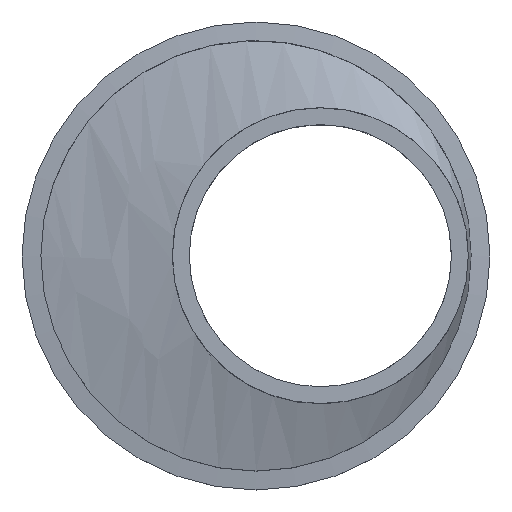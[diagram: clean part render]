
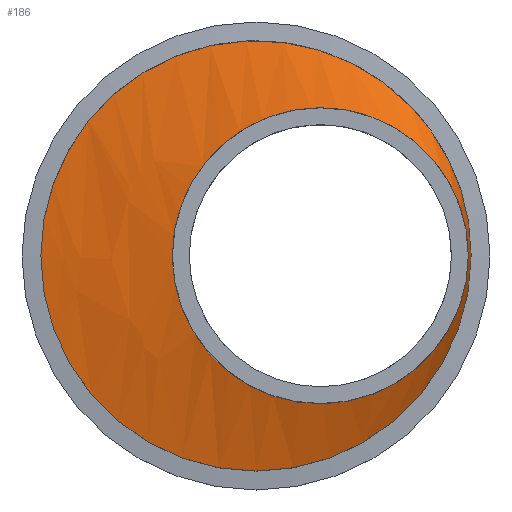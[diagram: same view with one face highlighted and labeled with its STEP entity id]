
A CAD part, top view. The second image highlights one B-rep face of the part: STEP entity #186.
In plain terms, the highlighted free-form (B-spline) face has degree [1, 2] with [2, 9] control points.
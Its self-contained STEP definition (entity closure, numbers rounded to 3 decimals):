
#15=B_SPLINE_CURVE_WITH_KNOTS($,1,(#357,#358),.UNSPECIFIED.,.F.,.F.,(2,
2),(-0.36,0.),.UNSPECIFIED.);
#17=(
BOUNDED_SURFACE()
B_SPLINE_SURFACE(1,2,((#335,#336,#337,#338,#339,#340,#341,#342,#343),(#344,
#345,#346,#347,#348,#349,#350,#351,#352)),.UNSPECIFIED.,.F.,.T.,.F.)
B_SPLINE_SURFACE_WITH_KNOTS((2,2),(3,2,2,2,3),(-2.985,0.692),
(-3.142,-1.571,0.,1.571,3.142),
 .UNSPECIFIED.)
GEOMETRIC_REPRESENTATION_ITEM()
RATIONAL_B_SPLINE_SURFACE(((1.,0.707,1.,0.707,1.,
0.707,1.,0.707,1.),(1.,0.707,1.,0.707,
1.,0.707,1.,0.707,1.)))
REPRESENTATION_ITEM($)
SURFACE()
);
#39=FACE_OUTER_BOUND($,#55,.T.);
#55=EDGE_LOOP($,(#145,#146,#147,#148,#149,#150));
#68=CIRCLE($,#202,80.);
#69=CIRCLE($,#203,80.);
#78=CIRCLE($,#214,55.);
#79=CIRCLE($,#215,55.);
#86=VERTEX_POINT($,#293);
#87=VERTEX_POINT($,#294);
#96=VERTEX_POINT($,#353);
#97=VERTEX_POINT($,#354);
#104=EDGE_CURVE($,#86,#87,#68,.T.);
#105=EDGE_CURVE($,#87,#86,#69,.T.);
#115=EDGE_CURVE($,#96,#97,#78,.T.);
#116=EDGE_CURVE($,#97,#96,#79,.T.);
#117=EDGE_CURVE($,#97,#87,#15,.T.);
#145=ORIENTED_EDGE($,*,*,#115,.F.);
#146=ORIENTED_EDGE($,*,*,#116,.F.);
#147=ORIENTED_EDGE($,*,*,#117,.T.);
#148=ORIENTED_EDGE($,*,*,#104,.F.);
#149=ORIENTED_EDGE($,*,*,#105,.F.);
#150=ORIENTED_EDGE($,*,*,#117,.F.);
#186=ADVANCED_FACE($,(#39),#17,.F.);
#202=AXIS2_PLACEMENT_3D($,#295,#240,#241);
#203=AXIS2_PLACEMENT_3D($,#296,#242,#243);
#214=AXIS2_PLACEMENT_3D($,#355,#264,#265);
#215=AXIS2_PLACEMENT_3D($,#356,#266,#267);
#240=DIRECTION('center_axis',(0.,0.,-1.));
#241=DIRECTION('ref_axis',(-1.,0.,0.));
#242=DIRECTION('center_axis',(0.,0.,-1.));
#243=DIRECTION('ref_axis',(-1.,0.,0.));
#264=DIRECTION('center_axis',(0.,0.,1.));
#265=DIRECTION('ref_axis',(-1.,0.,0.));
#266=DIRECTION('center_axis',(0.,0.,1.));
#267=DIRECTION('ref_axis',(-1.,0.,0.));
#293=CARTESIAN_POINT('',(80.,0.,80.));
#294=CARTESIAN_POINT('',(57.605,55.513,80.));
#295=CARTESIAN_POINT('Origin',(0.,0.,80.));
#296=CARTESIAN_POINT('Origin',(0.,0.,80.));
#335=CARTESIAN_POINT('Ctrl Pts',(8.431,199.224,13.727));
#336=CARTESIAN_POINT('Ctrl Pts',(-80.727,199.224,79.881));
#337=CARTESIAN_POINT('Ctrl Pts',(-80.727,0.,
79.881));
#338=CARTESIAN_POINT('Ctrl Pts',(-80.727,-199.224,79.881));
#339=CARTESIAN_POINT('Ctrl Pts',(8.431,-199.224,13.727));
#340=CARTESIAN_POINT('Ctrl Pts',(97.588,-199.224,-52.427));
#341=CARTESIAN_POINT('Ctrl Pts',(97.588,0.,
-52.427));
#342=CARTESIAN_POINT('Ctrl Pts',(97.588,199.224,-52.427));
#343=CARTESIAN_POINT('Ctrl Pts',(8.431,199.224,13.727));
#344=CARTESIAN_POINT('Ctrl Pts',(69.008,22.188,95.368));
#345=CARTESIAN_POINT('Ctrl Pts',(59.078,22.188,102.736));
#346=CARTESIAN_POINT('Ctrl Pts',(59.078,0.,
102.736));
#347=CARTESIAN_POINT('Ctrl Pts',(59.078,-22.188,102.736));
#348=CARTESIAN_POINT('Ctrl Pts',(69.008,-22.188,95.368));
#349=CARTESIAN_POINT('Ctrl Pts',(78.938,-22.188,88.));
#350=CARTESIAN_POINT('Ctrl Pts',(78.938,0.,88.));
#351=CARTESIAN_POINT('Ctrl Pts',(78.938,22.188,88.));
#352=CARTESIAN_POINT('Ctrl Pts',(69.008,22.188,95.368));
#353=CARTESIAN_POINT('',(78.938,0.,88.));
#354=CARTESIAN_POINT('',(63.541,38.165,88.));
#355=CARTESIAN_POINT('Origin',(23.938,0.,88.));
#356=CARTESIAN_POINT('Origin',(23.938,0.,88.));
#357=CARTESIAN_POINT('Ctrl Pts',(63.541,38.165,88.));
#358=CARTESIAN_POINT('Ctrl Pts',(57.605,55.513,80.));
